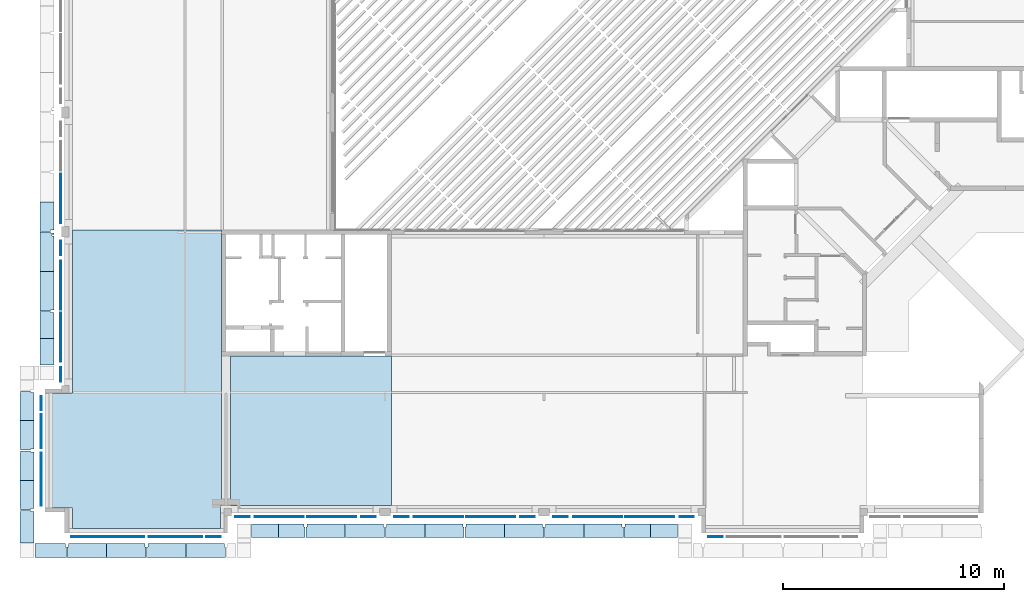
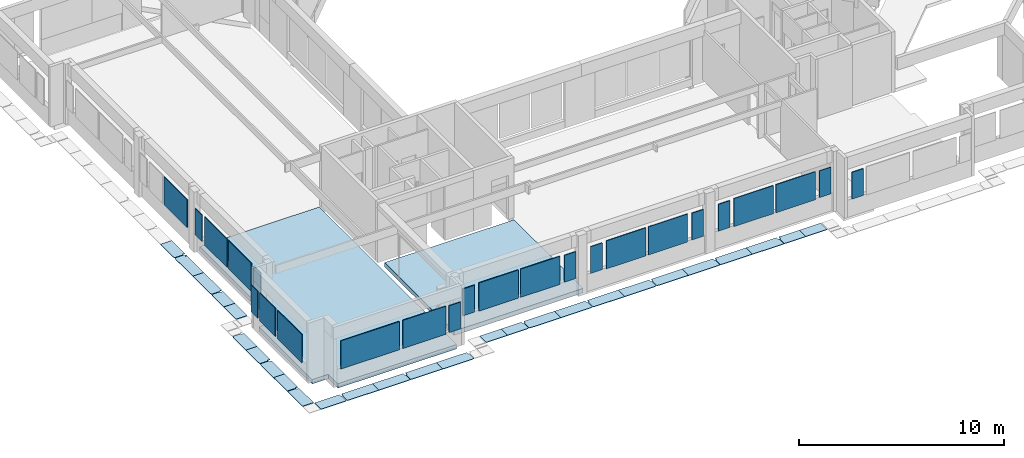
# One storey, part 16 of 37: 29 slabs, 24 plates.
"""IFC4X3_ADD2 building model written with IfcOpenShell, lengths in millimetres."""

from ifc_helpers import new_model, si_unit, direction, frame, frame_2d, origin_with_axes, origin_2d_with_axis, place, context, subcontext, project, spatial, polyline, rectangle, outline, extrude, source, transform, mapped, material, type_object, element, save


model = new_model("IFC4X3_ADD2")

# Units and contexts
model_context = context("Model", 3, precision=1e-05, world=origin_with_axes(), true_north=direction((0.0, 1.0)))
body_context = subcontext(model_context, "Body", "Model", "MODEL_VIEW")
ifc_project = project(units=[si_unit("LENGTHUNIT", "METRE", prefix="MILLI"), si_unit("AREAUNIT", "SQUARE_METRE"), si_unit("VOLUMEUNIT", "CUBIC_METRE"), si_unit("PLANEANGLEUNIT", "RADIAN"), si_unit("TIMEUNIT", "SECOND"), si_unit("MASSUNIT", "GRAM")], contexts=[model_context])

# Site, building, storey
site_placement = place(None, origin_with_axes())
site = spatial("IfcSite", under=ifc_project, at=site_placement, Name="Site", CompositionType="ELEMENT")
building_placement = place(site_placement, origin_with_axes())
building = spatial("IfcBuilding", under=site, at=building_placement, Name="IFC Building Story")
storey_placement = place(building_placement, frame((0.0, 0.0, 3600.0), z_axis=(0.0, 0.0, 1.0), x_axis=(1.0, 0.0, 0.0)))
storey = spatial("IfcBuildingStorey", under=building, at=storey_placement, Name="010", Elevation=3600.0)

# Plates
ifc_material_1 = material(Name="BB_Glas")
shared_shape_1 = source(origin_with_axes(), body_context, "Body", "SweptSolid", [
    extrude(rectangle(XDim=1602.000000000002, YDim=652.000000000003, at=frame_2d((0.0, 0.0), x_axis=(0.0, 1.0))), frame((0.0, 0.0, -44.0), z_axis=(0.0, 0.0, 1.0), x_axis=(1.0, 0.0, 0.0)), (0.0, 0.0, 1.0), 44.0),
])
for number, where, z_axis, x_axis in (
    (1, (-28356.0, -287.499999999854, 1765.0), (0.0, -1.0, 0.0), (1.0, 0.0, 0.0)),
    (2, (-22644.0, -287.499999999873, 1765.0), (0.0, -1.0, 0.0), (1.0, 0.0, 0.0)),
    (3, (-21336.0, -1187.50000000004, 1765.0), (0.0, -1.0, 0.0), (1.0, 0.0, 0.0)),
    (4, (-35556.0, -287.499999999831, 1765.0), (0.0, -1.0, 0.0), (1.0, 0.0, 0.0)),
    (5, (-29844.0, -287.49999999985, 1765.0), (0.0, -1.0, 0.0), (1.0, 0.0, 0.0)),
    (6, (-42756.0, -287.499999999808, 1765.0), (0.0, -1.0, 0.0), (1.0, 0.0, 0.0)),
    (7, (-37044.0, -287.499999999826, 1765.0), (0.0, -1.0, 0.0), (1.0, 0.0, 0.0)),
    (8, (-51887.5000000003, 4866.0, 1765.0), (-1.0, 0.0, 0.0), (0.0, -1.0, 0.0)),
    (9, (-50987.4999999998, 11886.0, 1765.0), (-1.0, 0.0, 0.0), (0.0, -1.0, 0.0)),
    (10, (-50987.4999999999, 6174.0, 1765.0), (-1.0, 0.0, 0.0), (0.0, -1.0, 0.0)),
):
    element("IfcPlate", number, at=place(storey_placement, frame(where, z_axis=z_axis, x_axis=x_axis)), inside=storey, material=ifc_material_1, Name="BB_07.06_Buitenbeglazing, rechthoekig_GMO:07.06.72#01_Drievoudige beglazing, 44 mm, A/A*/A", ObjectType="BB_07.06_Buitenbeglazing, rechthoekig_GMO:07.06.72#01_Drievoudige beglazing, 44 mm, A/A*/A", PredefinedType="USERDEFINED", context=body_context, shape_type="MappedRepresentation", body=[
        mapped(shared_shape_1, transform((0.0, 0.0, 0.0))),
    ])
shared_shape_2 = source(origin_with_axes(), body_context, "Body", "SweptSolid", [
    extrude(rectangle(XDim=2222.0, YDim=1680.000000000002, at=origin_2d_with_axis()), frame((0.0, 0.0, -44.0), z_axis=(0.0, 0.0, 1.0), x_axis=(1.0, 0.0, 0.0)), (0.0, 0.0, 1.0), 44.0),
])
for number, where, z_axis, x_axis in (
    (11, (-26681.0, -287.499999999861, 1765.0), (0.0, -1.0, 0.0), (1.0, 0.0, 0.0)),
    (12, (-24319.0, -287.499999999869, 1765.0), (0.0, -1.0, 0.0), (1.0, 0.0, 0.0)),
    (13, (-33881.0, -287.499999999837, 1765.0), (0.0, -1.0, 0.0), (1.0, 0.0, 0.0)),
    (14, (-31519.0, -287.499999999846, 1765.0), (0.0, -1.0, 0.0), (1.0, 0.0, 0.0)),
    (15, (-41081.0, -287.499999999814, 1765.0), (0.0, -1.0, 0.0), (1.0, 0.0, 0.0)),
    (16, (-38719.0, -287.499999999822, 1765.0), (0.0, -1.0, 0.0), (1.0, 0.0, 0.0)),
    (17, (-50987.4999999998, 10211.0, 1765.0), (-1.0, 0.0, 0.0), (0.0, -1.0, 0.0)),
    (18, (-50987.4999999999, 7849.0, 1765.0), (-1.0, 0.0, 0.0), (0.0, -1.0, 0.0)),
):
    element("IfcPlate", number, at=place(storey_placement, frame(where, z_axis=z_axis, x_axis=x_axis)), inside=storey, material=ifc_material_1, Name="BB_07.06_Buitenbeglazing, rechthoekig_GMO:07.06.72#01_Drievoudige beglazing, 44 mm, A/A*/A", ObjectType="BB_07.06_Buitenbeglazing, rechthoekig_GMO:07.06.72#01_Drievoudige beglazing, 44 mm, A/A*/A", PredefinedType="USERDEFINED", context=body_context, shape_type="MappedRepresentation", body=[
        mapped(shared_shape_2, transform((0.0, 0.0, 0.0))),
    ])
shared_shape_3 = source(origin_with_axes(), body_context, "Body", "SweptSolid", [
    extrude(rectangle(XDim=1602.000000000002, YDim=652.0000000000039, at=frame_2d((0.0, 0.0), x_axis=(0.0, 1.0))), frame((0.0, 0.0, -44.0), z_axis=(0.0, 0.0, 1.0), x_axis=(1.0, 0.0, 0.0)), (0.0, 0.0, 1.0), 44.0),
])
plate_1_placement = place(storey_placement, frame((-44064.0, -1187.49999999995, 1765.0), z_axis=(0.0, -1.0, 0.0), x_axis=(-1.0, 0.0, 0.0)))
element("IfcPlate", 19, at=plate_1_placement, inside=storey, material=ifc_material_1, Name="BB_07.06_Buitenbeglazing, rechthoekig_GMO:07.06.72#01_Drievoudige beglazing, 44 mm, A/A*/A", ObjectType="BB_07.06_Buitenbeglazing, rechthoekig_GMO:07.06.72#01_Drievoudige beglazing, 44 mm, A/A*/A", PredefinedType="USERDEFINED", context=body_context, shape_type="MappedRepresentation", body=[
    mapped(shared_shape_3, transform((0.0, 0.0, 0.0))),
])
shared_shape_4 = source(origin_with_axes(), body_context, "Body", "SweptSolid", [
    extrude(rectangle(XDim=2432.0, YDim=1680.000000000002, at=origin_2d_with_axis()), frame((0.0, 0.0, -44.0), z_axis=(0.0, 0.0, 1.0), x_axis=(1.0, 0.0, 0.0)), (0.0, 0.0, 1.0), 44.0),
])
plate_2_placement = place(storey_placement, frame((-45784.0, -1187.49999999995, 1765.0), z_axis=(0.0, -1.0, 0.0), x_axis=(-1.0, 0.0, 0.0)))
element("IfcPlate", 20, at=plate_2_placement, inside=storey, material=ifc_material_1, Name="BB_07.06_Buitenbeglazing, rechthoekig_GMO:07.06.72#01_Drievoudige beglazing, 44 mm, A/A*/A", ObjectType="BB_07.06_Buitenbeglazing, rechthoekig_GMO:07.06.72#01_Drievoudige beglazing, 44 mm, A/A*/A", PredefinedType="USERDEFINED", context=body_context, shape_type="MappedRepresentation", body=[
    mapped(shared_shape_4, transform((0.0, 0.0, 0.0))),
])
shared_shape_5 = source(origin_with_axes(), body_context, "Body", "SweptSolid", [
    extrude(rectangle(XDim=3300.0, YDim=1680.000000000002, at=origin_2d_with_axis()), frame((0.0, 0.0, -44.0), z_axis=(0.0, 0.0, 1.0), x_axis=(1.0, 0.0, 0.0)), (0.0, 0.0, 1.0), 44.0),
])
plate_3_placement = place(storey_placement, frame((-48850.0, -1187.49999999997, 1765.0), z_axis=(0.0, -1.0, 0.0), x_axis=(-1.0, 0.0, 0.0)))
element("IfcPlate", 21, at=plate_3_placement, inside=storey, material=ifc_material_1, Name="BB_07.06_Buitenbeglazing, rechthoekig_GMO:07.06.72#01_Drievoudige beglazing, 44 mm, A/A*/A", ObjectType="BB_07.06_Buitenbeglazing, rechthoekig_GMO:07.06.72#01_Drievoudige beglazing, 44 mm, A/A*/A", PredefinedType="USERDEFINED", context=body_context, shape_type="MappedRepresentation", body=[
    mapped(shared_shape_5, transform((0.0, 0.0, 0.0))),
])
shared_shape_6 = source(origin_with_axes(), body_context, "Body", "SweptSolid", [
    extrude(rectangle(XDim=1680.000000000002, YDim=1532.000000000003, at=frame_2d((0.0, 0.0), x_axis=(0.0, 1.0))), frame((0.0, 0.0, -44.0), z_axis=(0.0, 0.0, 1.0), x_axis=(1.0, 0.0, 0.0)), (0.0, 0.0, 1.0), 44.0),
])
plate_4_placement = place(storey_placement, frame((-51887.5000000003, 3596.0, 1765.0), z_axis=(-1.0, 0.0, 0.0), x_axis=(0.0, -1.0, 0.0)))
element("IfcPlate", 22, at=plate_4_placement, inside=storey, material=ifc_material_1, Name="BB_07.06_Buitenbeglazing, rechthoekig_GMO:07.06.72#01_Drievoudige beglazing, 44 mm, A/A*/A", ObjectType="BB_07.06_Buitenbeglazing, rechthoekig_GMO:07.06.72#01_Drievoudige beglazing, 44 mm, A/A*/A", PredefinedType="USERDEFINED", context=body_context, shape_type="MappedRepresentation", body=[
    mapped(shared_shape_6, transform((0.0, 0.0, 0.0))),
])
shared_shape_7 = source(origin_with_axes(), body_context, "Body", "SweptSolid", [
    extrude(rectangle(XDim=2400.0, YDim=1680.000000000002, at=origin_2d_with_axis()), frame((0.0, 0.0, -44.0), z_axis=(0.0, 0.0, 1.0), x_axis=(1.0, 0.0, 0.0)), (0.0, 0.0, 1.0), 44.0),
])
plate_5_placement = place(storey_placement, frame((-51887.5000000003, 1430.0, 1765.0), z_axis=(-1.0, 0.0, 0.0), x_axis=(0.0, -1.0, 0.0)))
element("IfcPlate", 23, at=plate_5_placement, inside=storey, material=ifc_material_1, Name="BB_07.06_Buitenbeglazing, rechthoekig_GMO:07.06.72#01_Drievoudige beglazing, 44 mm, A/A*/A", ObjectType="BB_07.06_Buitenbeglazing, rechthoekig_GMO:07.06.72#01_Drievoudige beglazing, 44 mm, A/A*/A", PredefinedType="USERDEFINED", context=body_context, shape_type="MappedRepresentation", body=[
    mapped(shared_shape_7, transform((0.0, 0.0, 0.0))),
])
shared_shape_8 = source(origin_with_axes(), body_context, "Body", "SweptSolid", [
    extrude(rectangle(XDim=2250.0, YDim=1680.000000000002, at=origin_2d_with_axis()), frame((0.0, 0.0, -44.0), z_axis=(0.0, 0.0, 1.0), x_axis=(1.0, 0.0, 0.0)), (0.0, 0.0, 1.0), 44.0),
])
plate_6_placement = place(storey_placement, frame((-50987.4999999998, 14135.0, 1765.0), z_axis=(-1.0, 0.0, 0.0), x_axis=(0.0, 1.0, 0.0)))
element("IfcPlate", 24, at=plate_6_placement, inside=storey, material=ifc_material_1, Name="BB_07.06_Buitenbeglazing, rechthoekig_GMO:07.06.72#01_Drievoudige beglazing, 44 mm, A/A*/A", ObjectType="BB_07.06_Buitenbeglazing, rechthoekig_GMO:07.06.72#01_Drievoudige beglazing, 44 mm, A/A*/A", PredefinedType="USERDEFINED", context=body_context, shape_type="MappedRepresentation", body=[
    mapped(shared_shape_8, transform((0.0, 0.0, 0.0))),
])

# Slabs
ifc_material_2 = material(Name="BB_Beton_Bestaand")
slab_type_1 = type_object("IfcSlabType", Name="BB_Beton_Bestaand 260", PredefinedType="FLOOR", material=ifc_material_2)
slab_1_placement = place(storey_placement, frame((-51365.0000000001, 12700.00406588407, -460.0), z_axis=(0.0, 0.0, 1.0), x_axis=(0.0, -1.0, 0.0)))
element("IfcSlab", 25, at=slab_1_placement, inside=storey, type_object=slab_type_1, Name="Floor:BB_XX_Vloer welfsels, 260 mm", ObjectType="Floor:BB_XX_Vloer welfsels, 260 mm", PredefinedType="FLOOR", context=body_context, shape_type="SweptSolid", body=[
    extrude(outline(polyline([(4325.000813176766, -2511.000000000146), (3395.000813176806, -2511.000000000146), (3395.000813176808, -3421.000000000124), (-1814.999186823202, -3421.000000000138), (-1814.999186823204, -2510.999999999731), (-9180.003252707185, -2510.999999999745), (-9180.003252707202, 4244.000000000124), (3275.00081317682, 4244.000000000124), (3275.00081317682, 4198.999999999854), (4325.00081317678, 4198.999999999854), (4325.000813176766, -2511.000000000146)])), frame((9180.003252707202, 3421.000000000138, 0.0), z_axis=(0.0, 0.0, 1.0), x_axis=(1.0, 0.0, 0.0)), (0.0, 0.0, 1.0), 260.0),
])
slab_2_placement = place(storey_placement, frame((-43300.00000000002, 245.0, -460.0), z_axis=(0.0, 0.0, 1.0), x_axis=(1.0, 0.0, 0.0)))
element("IfcSlab", 26, at=slab_2_placement, inside=storey, type_object=slab_type_1, Name="Floor:BB_XX_Vloer welfsels, 260 mm", ObjectType="Floor:BB_XX_Vloer welfsels, 260 mm", PredefinedType="FLOOR", context=body_context, shape_type="SweptSolid", body=[
    extrude(rectangle(XDim=7300.000000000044, YDim=6755.00000000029, at=origin_2d_with_axis()), frame((3650.000000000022, 3377.50000000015, 0.0), z_axis=(0.0, 0.0, 1.0), x_axis=(1.0, 0.0, 0.0)), (0.0, 0.0, 1.0), 260.0),
])
ifc_material_3 = material(Name="Steel, Galvanized - looprooster")
slab_type_2 = type_object("IfcSlabType", Name="Steel, Galvanized - looprooster 30", PredefinedType="FLOOR", material=ifc_material_3)
slab_3_placement = place(storey_placement, frame((-52819.99783771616, 4080.001963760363, -350.0), z_axis=(0.0, 0.0, 1.0), x_axis=(0.0, -1.0, 0.0)))
element("IfcSlab", 27, at=slab_3_placement, inside=storey, type_object=slab_type_2, Name="Floor:GVH - Looprooster 30 mm", ObjectType="Floor:GVH - Looprooster 30 mm", PredefinedType="FLOOR", context=body_context, shape_type="SweptSolid", body=[
    extrude(outline(polyline([(368.5004999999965, -267.5009748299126), (281.5004999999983, -267.5009748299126), (281.5004999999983, -282.4986745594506), (-966.5014999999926, -282.4986745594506), (-966.5014999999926, 347.5013254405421), (316.5004999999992, 347.5013254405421), (316.5004999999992, 202.4983239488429), (368.5004999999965, 202.4983239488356), (368.5004999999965, -267.5009748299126)])), frame((966.5014999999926, 282.4986745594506, 0.0), z_axis=(0.0, 0.0, 1.0), x_axis=(1.0, 0.0, 0.0)), (0.0, 0.0, 1.0), 30.0),
])
slab_4_placement = place(storey_placement, frame((-41122.49796376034, -1219.998397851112, -350.0), z_axis=(0.0, 0.0, 1.0), x_axis=(1.0, 0.0, 0.0)))
element("IfcSlab", 28, at=slab_4_placement, inside=storey, type_object=slab_type_2, Name="Floor:GVH - Looprooster 30 mm", ObjectType="Floor:GVH - Looprooster 30 mm", PredefinedType="FLOOR", context=body_context, shape_type="SweptSolid", body=[
    extrude(outline(polyline([(249.6245000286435, -267.4995632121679), (249.6245000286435, -282.4992199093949), (-870.873500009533, -282.4992199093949), (-870.873500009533, 347.5004367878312), (284.6244999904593, 347.5004367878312), (284.6244999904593, 202.4983463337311), (336.624499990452, 202.4983463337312), (336.624499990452, -267.4995632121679), (249.6245000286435, -267.4995632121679)])), frame((870.873500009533, 282.4992199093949, 0.0), z_axis=(0.0, 0.0, 1.0), x_axis=(1.0, 0.0, 0.0)), (0.0, 0.0, 1.0), 30.0),
])
slab_5_placement = place(storey_placement, frame((-38099.49796376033, -1219.99839785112, -350.0), z_axis=(0.0, 0.0, 1.0), x_axis=(1.0, 0.0, 0.0)))
element("IfcSlab", 29, at=slab_5_placement, inside=storey, type_object=slab_type_2, Name="Floor:GVH - Looprooster 30 mm", ObjectType="Floor:GVH - Looprooster 30 mm", PredefinedType="FLOOR", context=body_context, shape_type="SweptSolid", body=[
    extrude(outline(polyline([(393.9995000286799, -267.499561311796), (393.9995000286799, -282.499218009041), (-1303.998500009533, -282.499218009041), (-1303.998500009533, 347.500438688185), (428.9994999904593, 347.500438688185), (428.9994999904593, 202.498340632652), (480.9994999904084, 202.498340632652), (480.9994999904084, -267.499561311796), (393.9995000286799, -267.499561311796)])), frame((1303.998500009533, 282.499218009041, 0.0), z_axis=(0.0, 0.0, 1.0), x_axis=(1.0, 0.0, 0.0)), (0.0, 0.0, 1.0), 30.0),
])
slab_6_placement = place(storey_placement, frame((-51919.99797688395, 13979.49796376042, -350.0), z_axis=(0.0, 0.0, 1.0), x_axis=(0.0, -1.0, 0.0)))
element("IfcSlab", 30, at=slab_6_placement, inside=storey, type_object=slab_type_2, Name="Floor:GVH - Looprooster 30 mm", ObjectType="Floor:GVH - Looprooster 30 mm", PredefinedType="FLOOR", context=body_context, shape_type="SweptSolid", body=[
    extrude(outline(polyline([(368.3744499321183, -267.5006947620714), (281.3746502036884, -267.5006947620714), (281.3746502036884, -282.4989546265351), (-966.1235500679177, -282.4989546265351), (-966.1235500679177, 347.5010453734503), (316.3744499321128, 347.5010453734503), (316.3744499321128, 202.4986040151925), (368.3744499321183, 202.4986040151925), (368.3744499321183, -267.5006947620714)])), frame((966.1235500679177, 282.4989546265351, 0.0), z_axis=(0.0, 0.0, 1.0), x_axis=(1.0, 0.0, 0.0)), (0.0, 0.0, 1.0), 30.0),
])
slab_7_placement = place(storey_placement, frame((-51919.99839785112, 12614.99596376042, -350.0), z_axis=(0.0, 0.0, 1.0), x_axis=(0.0, -1.0, 0.0)))
element("IfcSlab", 31, at=slab_7_placement, inside=storey, type_object=slab_type_2, Name="Floor:GVH - Looprooster 30 mm", ObjectType="Floor:GVH - Looprooster 30 mm", PredefinedType="FLOOR", context=body_context, shape_type="SweptSolid", body=[
    extrude(outline(polyline([(-183.9149672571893, 246.667989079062), (1415.57903274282, 246.667989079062), (1415.57903274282, -383.3320109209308), (-281.9191637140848, -383.3320109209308), (-281.9191637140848, -368.3342997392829), (-368.9149672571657, -368.3342997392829), (-368.9149672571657, 101.6655477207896), (-316.9149672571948, 101.6655477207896), (-316.9149672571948, 246.667989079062), (-263.9149672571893, 246.667989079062), (-263.9149672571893, 156.6647847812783), (-183.9149672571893, 156.6647847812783), (-183.9149672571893, 246.667989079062)])), frame((368.9149672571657, 383.3320109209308, 0.0), z_axis=(0.0, 0.0, 1.0), x_axis=(1.0, 0.0, 0.0)), (0.0, 0.0, 1.0), 30.0),
])
slab_8_placement = place(storey_placement, frame((-51919.99839785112, 10829.49796185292, -350.0), z_axis=(0.0, 0.0, 1.0), x_axis=(0.0, -1.0, 0.0)))
element("IfcSlab", 32, at=slab_8_placement, inside=storey, type_object=slab_type_2, Name="Floor:GVH - Looprooster 30 mm", ObjectType="Floor:GVH - Looprooster 30 mm", PredefinedType="FLOOR", context=body_context, shape_type="SweptSolid", body=[
    extrude(outline(polyline([(480.876449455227, -267.5017166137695), (393.8726497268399, -267.5017166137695), (393.8726497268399, -282.4994277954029), (-1303.62554863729, -282.4994277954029), (-1303.62554863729, 347.5005722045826), (428.8764494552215, 347.5005722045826), (428.8764494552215, 202.5005722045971), (480.876449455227, 202.5005722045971), (480.876449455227, -267.5017166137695)])), frame((1303.62554863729, 282.4994277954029, 0.0), z_axis=(0.0, 0.0, 1.0), x_axis=(1.0, 0.0, 0.0)), (0.0, 0.0, 1.0), 30.0),
])
slab_9_placement = place(storey_placement, frame((-51919.99595649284, 9014.999963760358, -350.0), z_axis=(0.0, 0.0, 1.0), x_axis=(0.0, -1.0, 0.0)))
element("IfcSlab", 33, at=slab_9_placement, inside=storey, type_object=slab_type_2, Name="Floor:GVH - Looprooster 30 mm", ObjectType="Floor:GVH - Looprooster 30 mm", PredefinedType="FLOOR", context=body_context, shape_type="SweptSolid", body=[
    extrude(outline(polyline([(-284.6244513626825, 347.501045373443), (870.8735505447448, 347.501045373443), (870.8735505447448, -282.4989546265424), (-249.6246478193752, -282.4989546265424), (-249.6246478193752, -267.5006947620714), (-336.624451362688, -267.5006947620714), (-336.6244513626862, 202.4986040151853), (-284.6244513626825, 202.4986040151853), (-284.6244513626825, 347.501045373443)])), frame((336.624451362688, 282.4989546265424, 0.0), z_axis=(0.0, 0.0, 1.0), x_axis=(1.0, 0.0, 0.0)), (0.0, 0.0, 1.0), 30.0),
])
slab_10_placement = place(storey_placement, frame((-51919.99595649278, 7806.499258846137, -350.0), z_axis=(0.0, 0.0, 1.0), x_axis=(0.0, -1.0, 0.0)))
element("IfcSlab", 34, at=slab_10_placement, inside=storey, type_object=slab_type_2, Name="Floor:GVH - Looprooster 30 mm", ObjectType="Floor:GVH - Looprooster 30 mm", PredefinedType="FLOOR", context=body_context, shape_type="SweptSolid", body=[
    extrude(rectangle(XDim=1207.998000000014, YDim=629.9999999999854, at=frame_2d((0.0, 0.0), x_axis=(-1.0, 0.0))), frame((603.9990000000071, 314.9999999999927, 0.0), z_axis=(0.0, 0.0, 1.0), x_axis=(1.0, 0.0, 0.0)), (0.0, 0.0, 1.0), 30.0),
])
slab_11_placement = place(storey_placement, frame((-36285.00000000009, -1219.99839785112, -350.0), z_axis=(0.0, 0.0, 1.0), x_axis=(1.0, 0.0, 0.0)))
element("IfcSlab", 35, at=slab_11_placement, inside=storey, type_object=slab_type_2, Name="Floor:GVH - Looprooster 30 mm", ObjectType="Floor:GVH - Looprooster 30 mm", PredefinedType="FLOOR", context=body_context, shape_type="SweptSolid", body=[
    extrude(outline(polyline([(-393.9994637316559, -282.499218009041), (-393.9994637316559, -267.499561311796), (-480.9995000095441, -267.499561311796), (-480.9995000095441, 202.498340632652), (-428.9995362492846, 202.498340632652), (-428.9995362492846, 347.500438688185), (1303.998499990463, 347.500438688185), (1303.998499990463, -282.499218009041), (-393.9994637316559, -282.499218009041)])), frame((480.9995000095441, 282.499218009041, 0.0), z_axis=(0.0, 0.0, 1.0), x_axis=(1.0, 0.0, 0.0)), (0.0, 0.0, 1.0), 30.0),
])
slab_12_placement = place(storey_placement, frame((-32685.49996376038, -1219.998390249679, -350.0), z_axis=(0.0, 0.0, 1.0), x_axis=(1.0, 0.0, 0.0)))
element("IfcSlab", 36, at=slab_12_placement, inside=storey, type_object=slab_type_2, Name="Floor:GVH - Looprooster 30 mm", ObjectType="Floor:GVH - Looprooster 30 mm", PredefinedType="FLOOR", context=body_context, shape_type="SweptSolid", body=[
    extrude(outline(polyline([(-393.9995000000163, -282.4992180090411), (-393.9995000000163, -267.4995613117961), (-480.9994999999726, -267.4995613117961), (-480.9994999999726, 202.4983406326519), (-428.999500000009, 202.4983406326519), (-428.999500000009, 347.5004386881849), (1303.998499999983, 347.5004386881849), (1303.998499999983, -282.4992180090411), (-393.9995000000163, -282.4992180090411)])), frame((480.9994999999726, 282.4992180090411, 0.0), z_axis=(0.0, 0.0, 1.0), x_axis=(1.0, 0.0, 0.0)), (0.0, 0.0, 1.0), 30.0),
])
slab_13_placement = place(storey_placement, frame((-29085.49996376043, -1219.99839785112, -350.0), z_axis=(0.0, 0.0, 1.0), x_axis=(1.0, 0.0, 0.0)))
element("IfcSlab", 37, at=slab_13_placement, inside=storey, type_object=slab_type_2, Name="Floor:GVH - Looprooster 30 mm", ObjectType="Floor:GVH - Looprooster 30 mm", PredefinedType="FLOOR", context=body_context, shape_type="SweptSolid", body=[
    extrude(outline(polyline([(-394.2494728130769, -282.499218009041), (-394.2494728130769, -267.499561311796), (-481.2494728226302, -267.499561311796), (-481.2494728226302, 202.498340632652), (-428.7495453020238, 202.498340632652), (-428.7495453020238, 347.500438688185), (1304.248490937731, 347.500438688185), (1304.248490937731, -282.499218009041), (-394.2494728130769, -282.499218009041)])), frame((481.2494728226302, 282.499218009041, 0.0), z_axis=(0.0, 0.0, 1.0), x_axis=(1.0, 0.0, 0.0)), (0.0, 0.0, 1.0), 30.0),
])
slab_14_placement = place(storey_placement, frame((-25484.99996376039, -1219.998397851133, -350.0), z_axis=(0.0, 0.0, 1.0), x_axis=(1.0, 0.0, 0.0)))
element("IfcSlab", 38, at=slab_14_placement, inside=storey, type_object=slab_type_2, Name="Floor:GVH - Looprooster 30 mm", ObjectType="Floor:GVH - Looprooster 30 mm", PredefinedType="FLOOR", context=body_context, shape_type="SweptSolid", body=[
    extrude(outline(polyline([(-249.6244909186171, -282.4992180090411), (-249.6244909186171, -267.4995613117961), (-336.6244909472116, -267.4995613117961), (-336.6244909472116, 202.4983406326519), (-284.6245271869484, 202.4983406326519), (-284.6245271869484, 347.5004386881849), (870.8735090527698, 347.5004386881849), (870.8735090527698, -282.4992180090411), (-249.6244909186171, -282.4992180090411)])), frame((336.6244909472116, 282.4992180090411, 0.0), z_axis=(0.0, 0.0, 1.0), x_axis=(1.0, 0.0, 0.0)), (0.0, 0.0, 1.0), 30.0),
])
slab_15_placement = place(storey_placement, frame((-52819.99783771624, 2714.999963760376, -350.0), z_axis=(0.0, 0.0, 1.0), x_axis=(0.0, -1.0, 0.0)))
element("IfcSlab", 39, at=slab_15_placement, inside=storey, type_object=slab_type_2, Name="Floor:GVH - Looprooster 30 mm", ObjectType="Floor:GVH - Looprooster 30 mm", PredefinedType="FLOOR", context=body_context, shape_type="SweptSolid", body=[
    extrude(outline(polyline([(-316.5004999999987, 347.5013254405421), (966.501499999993, 347.5013254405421), (966.501499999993, -282.4986745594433), (-281.5004999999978, -282.4986745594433), (-281.5004999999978, -267.5009748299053), (-368.500499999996, -267.5009748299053), (-368.500499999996, 202.4983239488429), (-316.5004999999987, 202.4983239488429), (-316.5004999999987, 347.5013254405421)])), frame((368.500499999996, 282.4986745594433, 0.0), z_axis=(0.0, 0.0, 1.0), x_axis=(1.0, 0.0, 0.0)), (0.0, 0.0, 1.0), 30.0),
])
slab_16_placement = place(storey_placement, frame((-52819.99783771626, 1379.497963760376, -350.0), z_axis=(0.0, 0.0, 1.0), x_axis=(0.0, -1.0, 0.0)))
element("IfcSlab", 40, at=slab_16_placement, inside=storey, type_object=slab_type_2, Name="Floor:GVH - Looprooster 30 mm", ObjectType="Floor:GVH - Looprooster 30 mm", PredefinedType="FLOOR", context=body_context, shape_type="SweptSolid", body=[
    extrude(outline(polyline([(368.376449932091, -267.5009748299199), (281.3726502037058, -267.5009748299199), (281.3726502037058, -282.4986745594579), (-966.1255500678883, -282.4986745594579), (-966.1255500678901, 347.5013254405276), (316.376449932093, 347.5013254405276), (316.3764499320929, 202.4983239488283), (368.3764499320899, 202.4983239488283), (368.376449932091, -267.5009748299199)])), frame((966.1255500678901, 282.4986745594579, 0.0), z_axis=(0.0, 0.0, 1.0), x_axis=(1.0, 0.0, 0.0)), (0.0, 0.0, 1.0), 30.0),
])
slab_17_placement = place(storey_placement, frame((-52819.99783771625, 14.99996376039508, -350.0), z_axis=(0.0, 0.0, 1.0), x_axis=(0.0, -1.0, 0.0)))
element("IfcSlab", 41, at=slab_17_placement, inside=storey, type_object=slab_type_2, Name="Floor:GVH - Looprooster 30 mm", ObjectType="Floor:GVH - Looprooster 30 mm", PredefinedType="FLOOR", context=body_context, shape_type="SweptSolid", body=[
    extrude(outline(polyline([(-349.3746271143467, 347.5013254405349), (1065.12407779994, 347.5013254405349), (1065.12407779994, -282.4986745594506), (-314.3748235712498, -282.4986745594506), (-314.3748235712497, -267.5009748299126), (-401.3746271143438, -267.5009748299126), (-401.3746271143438, 202.4983239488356), (-349.3746271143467, 202.4983239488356), (-349.3746271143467, 347.5013254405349)])), frame((401.3746271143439, 282.4986745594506, 0.0), z_axis=(0.0, 0.0, 1.0), x_axis=(1.0, 0.0, 0.0)), (0.0, 0.0, 1.0), 30.0),
])
slab_18_placement = place(storey_placement, frame((-39885.49996376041, -1219.99839785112, -350.0), z_axis=(0.0, 0.0, 1.0), x_axis=(1.0, 0.0, 0.0)))
element("IfcSlab", 42, at=slab_18_placement, inside=storey, type_object=slab_type_2, Name="Floor:GVH - Looprooster 30 mm", ObjectType="Floor:GVH - Looprooster 30 mm", PredefinedType="FLOOR", context=body_context, shape_type="SweptSolid", body=[
    extrude(outline(polyline([(-394.125481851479, -282.499218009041), (-394.125481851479, -267.499561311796), (-481.1254818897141, -267.499561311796), (-481.1254818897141, 202.498340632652), (-428.6215543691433, 202.498340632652), (-428.6215543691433, 347.500438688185), (1303.872518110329, 347.500438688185), (1303.872518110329, -282.499218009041), (-394.125481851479, -282.499218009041)])), frame((481.1254818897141, 282.499218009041, 0.0), z_axis=(0.0, 0.0, 1.0), x_axis=(1.0, 0.0, 0.0)), (0.0, 0.0, 1.0), 30.0),
])
slab_19_placement = place(storey_placement, frame((-34499.49796376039, -1219.99839785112, -350.0), z_axis=(0.0, 0.0, 1.0), x_axis=(1.0, 0.0, 0.0)))
element("IfcSlab", 43, at=slab_19_placement, inside=storey, type_object=slab_type_2, Name="Floor:GVH - Looprooster 30 mm", ObjectType="Floor:GVH - Looprooster 30 mm", PredefinedType="FLOOR", context=body_context, shape_type="SweptSolid", body=[
    extrude(outline(polyline([(393.9995000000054, -267.499561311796), (393.9995000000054, -282.499218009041), (-1303.998499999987, -282.499218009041), (-1303.998499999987, 347.500438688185), (428.9994999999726, 347.500438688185), (428.9994999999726, 202.498340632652), (480.9995000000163, 202.498340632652), (480.9995000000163, -267.499561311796), (393.9995000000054, -267.499561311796)])), frame((1303.998499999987, 282.499218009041, 0.0), z_axis=(0.0, 0.0, 1.0), x_axis=(1.0, 0.0, 0.0)), (0.0, 0.0, 1.0), 30.0),
])
slab_20_placement = place(storey_placement, frame((-30900.00196376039, -1219.998390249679, -350.0), z_axis=(0.0, 0.0, 1.0), x_axis=(1.0, 0.0, 0.0)))
element("IfcSlab", 44, at=slab_20_placement, inside=storey, type_object=slab_type_2, Name="Floor:GVH - Looprooster 30 mm", ObjectType="Floor:GVH - Looprooster 30 mm", PredefinedType="FLOOR", context=body_context, shape_type="SweptSolid", body=[
    extrude(outline(polyline([(394.002490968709, -267.4995613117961), (394.002490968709, -282.4992180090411), (-1303.999509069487, -282.4992180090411), (-1303.999509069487, 347.5004386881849), (428.9985271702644, 347.5004386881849), (428.9985271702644, 202.4983406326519), (480.9984909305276, 202.4983406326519), (480.9984909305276, -267.4995613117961), (394.002490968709, -267.4995613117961)])), frame((1303.999509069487, 282.4992180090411, 0.0), z_axis=(0.0, 0.0, 1.0), x_axis=(1.0, 0.0, 0.0)), (0.0, 0.0, 1.0), 30.0),
])
slab_21_placement = place(storey_placement, frame((-27300.00200000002, -1219.99839785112, -350.0), z_axis=(0.0, 0.0, 1.0), x_axis=(1.0, 0.0, 0.0)))
element("IfcSlab", 45, at=slab_21_placement, inside=storey, type_object=slab_type_2, Name="Floor:GVH - Looprooster 30 mm", ObjectType="Floor:GVH - Looprooster 30 mm", PredefinedType="FLOOR", context=body_context, shape_type="SweptSolid", body=[
    extrude(outline(polyline([(394.1255090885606, -267.499561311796), (394.1255090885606, -282.499218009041), (-1304.376527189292, -282.499218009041), (-1304.376527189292, 347.500438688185), (429.1255090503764, 347.500438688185), (429.1255090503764, 202.498340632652), (481.1255090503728, 202.498340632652), (481.1255090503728, -267.499561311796), (394.1255090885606, -267.499561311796)])), frame((1304.376527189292, 282.499218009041, 0.0), z_axis=(0.0, 0.0, 1.0), x_axis=(1.0, 0.0, 0.0)), (0.0, 0.0, 1.0), 30.0),
])
slab_22_placement = place(storey_placement, frame((-42331.5001068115, -1219.998397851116, -350.0), z_axis=(0.0, 0.0, 1.0), x_axis=(1.0, 0.0, 0.0)))
element("IfcSlab", 46, at=slab_22_placement, inside=storey, type_object=slab_type_2, Name="Floor:GVH - Looprooster 30 mm", ObjectType="Floor:GVH - Looprooster 30 mm", PredefinedType="FLOOR", context=body_context, shape_type="SweptSolid", body=[
    extrude(rectangle(XDim=1207.998000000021, YDim=629.9996566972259, at=origin_2d_with_axis()), frame((603.9990000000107, 314.9998283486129, 0.0), z_axis=(0.0, 0.0, 1.0), x_axis=(1.0, 0.0, 0.0)), (0.0, 0.0, 1.0), 30.0),
])
slab_23_placement = place(storey_placement, frame((-24276.49810681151, -1219.998397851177, -350.0), z_axis=(0.0, 0.0, 1.0), x_axis=(1.0, 0.0, 0.0)))
element("IfcSlab", 47, at=slab_23_placement, inside=storey, type_object=slab_type_2, Name="Floor:GVH - Looprooster 30 mm", ObjectType="Floor:GVH - Looprooster 30 mm", PredefinedType="FLOOR", context=body_context, shape_type="SweptSolid", body=[
    extrude(rectangle(XDim=1207.998000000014, YDim=629.9996566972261, at=origin_2d_with_axis()), frame((603.9990000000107, 314.9998283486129, 0.0), z_axis=(0.0, 0.0, 1.0), x_axis=(1.0, 0.0, 0.0)), (0.0, 0.0, 1.0), 30.0),
])
slab_24_placement = place(storey_placement, frame((-52819.99783771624, 5415.003963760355, -350.0), z_axis=(0.0, 0.0, 1.0), x_axis=(0.0, -1.0, 0.0)))
element("IfcSlab", 48, at=slab_24_placement, inside=storey, type_object=slab_type_2, Name="Floor:GVH - Looprooster 30 mm", ObjectType="Floor:GVH - Looprooster 30 mm", PredefinedType="FLOOR", context=body_context, shape_type="SweptSolid", body=[
    extrude(outline(polyline([(-316.3764513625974, 347.5013254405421), (966.1255505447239, 347.5013254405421), (966.1255505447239, -282.4986745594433), (-281.3726478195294, -282.4986745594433), (-281.3726478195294, -267.5009748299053), (-368.3764513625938, -267.5009748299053), (-368.3764513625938, 202.4983239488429), (-316.3764513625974, 202.4983239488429), (-316.3764513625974, 347.5013254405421)])), frame((368.3764513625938, 282.4986745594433, 0.0), z_axis=(0.0, 0.0, 1.0), x_axis=(1.0, 0.0, 0.0)), (0.0, 0.0, 1.0), 30.0),
])
slab_25_placement = place(storey_placement, frame((-52151.49839785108, -2119.998397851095, -350.0), z_axis=(0.0, 0.0, 1.0), x_axis=(1.0, 0.0, 0.0)))
element("IfcSlab", 49, at=slab_25_placement, inside=storey, type_object=slab_type_2, Name="Floor:GVH - Looprooster 30 mm", ObjectType="Floor:GVH - Looprooster 30 mm", PredefinedType="FLOOR", context=body_context, shape_type="SweptSolid", body=[
    extrude(outline(polyline([(306.8746085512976, -267.4995632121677), (306.8746085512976, -282.4992199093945), (-1042.623825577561, -282.4992199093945), (-1042.623825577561, 347.5004367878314), (341.8746085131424, 347.5004367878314), (341.8746085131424, 202.4983463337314), (393.8746085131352, 202.4983463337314), (393.8746085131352, -267.4995632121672), (306.8746085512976, -267.4995632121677)])), frame((1042.623825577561, 282.4992199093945, 0.0), z_axis=(0.0, 0.0, 1.0), x_axis=(1.0, 0.0, 0.0)), (0.0, 0.0, 1.0), 30.0),
])
slab_26_placement = place(storey_placement, frame((-50684.99600000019, -2119.998397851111, -350.0), z_axis=(0.0, 0.0, 1.0), x_axis=(1.0, 0.0, 0.0)))
element("IfcSlab", 50, at=slab_26_placement, inside=storey, type_object=slab_type_2, Name="Floor:GVH - Looprooster 30 mm", ObjectType="Floor:GVH - Looprooster 30 mm", PredefinedType="FLOOR", context=body_context, shape_type="SweptSolid", body=[
    extrude(outline(polyline([(-394.0024637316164, -282.4992180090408), (-394.0024637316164, -267.4995613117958), (-480.9985000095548, -267.4995613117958), (-480.9985000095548, 202.4983406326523), (-428.998536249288, 202.4983406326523), (-428.998536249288, 347.5004386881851), (1303.999499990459, 347.5004386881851), (1303.999499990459, -282.4992180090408), (-394.0024637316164, -282.4992180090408)])), frame((480.9985000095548, 282.4992180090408, 0.0), z_axis=(0.0, 0.0, 1.0), x_axis=(1.0, 0.0, 0.0)), (0.0, 0.0, 1.0), 30.0),
])
slab_27_placement = place(storey_placement, frame((-48899.49639785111, -2119.998397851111, -350.0), z_axis=(0.0, 0.0, 1.0), x_axis=(1.0, 0.0, 0.0)))
element("IfcSlab", 51, at=slab_27_placement, inside=storey, type_object=slab_type_2, Name="Floor:GVH - Looprooster 30 mm", ObjectType="Floor:GVH - Looprooster 30 mm", PredefinedType="FLOOR", context=body_context, shape_type="SweptSolid", body=[
    extrude(outline(polyline([(393.8741175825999, -267.499561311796), (393.8741175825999, -282.499218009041), (-1303.62231650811, -282.499218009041), (-1303.62231650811, 347.5004386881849), (428.874117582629, 347.5004386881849), (428.874117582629, 202.4983406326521), (480.8740813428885, 202.4983406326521), (480.8740813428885, -267.499561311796), (393.8741175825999, -267.499561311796)])), frame((1303.62231650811, 282.499218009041, 0.0), z_axis=(0.0, 0.0, 1.0), x_axis=(1.0, 0.0, 0.0)), (0.0, 0.0, 1.0), 30.0),
])
slab_28_placement = place(storey_placement, frame((-47084.99839785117, -2119.998397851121, -350.0), z_axis=(0.0, 0.0, 1.0), x_axis=(1.0, 0.0, 0.0)))
element("IfcSlab", 52, at=slab_28_placement, inside=storey, type_object=slab_type_2, Name="Floor:GVH - Looprooster 30 mm", ObjectType="Floor:GVH - Looprooster 30 mm", PredefinedType="FLOOR", context=body_context, shape_type="SweptSolid", body=[
    extrude(outline(polyline([(-393.9993836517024, -282.499218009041), (-393.9993836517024, -267.499561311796), (-480.9995267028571, -267.499561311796), (-480.9995267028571, 202.4983406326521), (-428.9995629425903, 202.4983406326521), (-428.9995629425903, 347.5004386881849), (1303.998473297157, 347.5004386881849), (1303.998473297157, -282.499218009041), (-393.9993836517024, -282.499218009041)])), frame((480.9995267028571, 282.499218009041, 0.0), z_axis=(0.0, 0.0, 1.0), x_axis=(1.0, 0.0, 0.0)), (0.0, 0.0, 1.0), 30.0),
])
slab_29_placement = place(storey_placement, frame((-45300.00039785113, -2119.998397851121, -350.0), z_axis=(0.0, 0.0, 1.0), x_axis=(1.0, 0.0, 0.0)))
element("IfcSlab", 53, at=slab_29_placement, inside=storey, type_object=slab_type_2, Name="Floor:GVH - Looprooster 30 mm", ObjectType="Floor:GVH - Looprooster 30 mm", PredefinedType="FLOOR", context=body_context, shape_type="SweptSolid", body=[
    extrude(outline(polyline([(394.0025982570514, -267.4995613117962), (394.0025982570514, -282.4992180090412), (-1303.999544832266, -282.4992180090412), (-1303.999544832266, 347.5004386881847), (428.9984914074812, 347.5004386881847), (428.9984914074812, 202.4983406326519), (480.998455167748, 202.4983406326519), (480.998455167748, -267.4995613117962), (394.0025982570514, -267.4995613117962)])), frame((1303.999544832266, 282.4992180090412, 0.0), z_axis=(0.0, 0.0, 1.0), x_axis=(1.0, 0.0, 0.0)), (0.0, 0.0, 1.0), 30.0),
])

save(model, "model.ifc")
